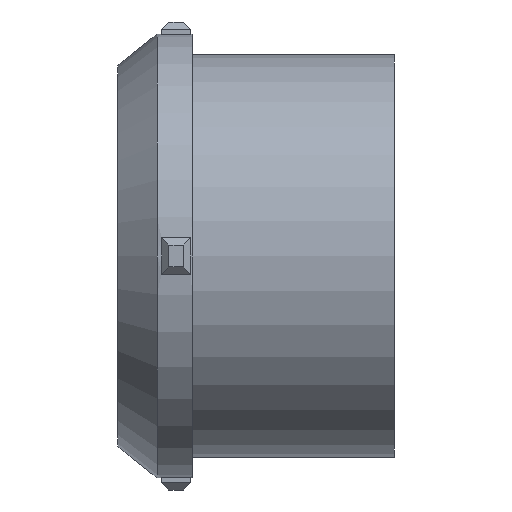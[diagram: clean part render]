
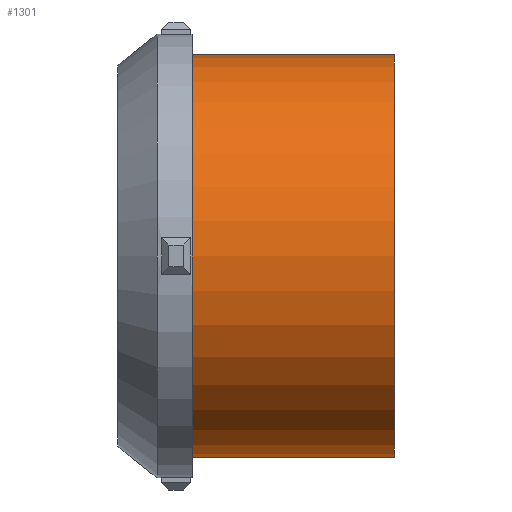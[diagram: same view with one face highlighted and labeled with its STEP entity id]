
A CAD part, left-side view. The second image highlights one B-rep face of the part: STEP entity #1301.
In plain terms, the highlighted cylindrical face has radius 6.985 mm (diameter 13.97 mm), a partial arc.
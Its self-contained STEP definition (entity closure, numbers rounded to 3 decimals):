
#22 = VERTEX_POINT('',#23);
#23 = CARTESIAN_POINT('',(0.,1.601,-6.985));
#24 = VERTEX_POINT('',#25);
#25 = CARTESIAN_POINT('',(0.,1.601,6.985));
#33 = CYLINDRICAL_SURFACE('',#34,6.985);
#34 = AXIS2_PLACEMENT_3D('',#35,#36,#37);
#35 = CARTESIAN_POINT('',(0.,-11.474,0.));
#36 = DIRECTION('',(0.,-1.,0.));
#37 = DIRECTION('',(0.,0.,-1.));
#44 = PLANE('',#45);
#45 = AXIS2_PLACEMENT_3D('',#46,#47,#48);
#46 = CARTESIAN_POINT('',(0.,1.601,-7.707));
#47 = DIRECTION('',(0.,-1.,0.));
#48 = DIRECTION('',(0.,0.,-1.));
#56 = EDGE_CURVE('',#24,#57,#59,.T.);
#57 = VERTEX_POINT('',#58);
#58 = CARTESIAN_POINT('',(0.,-5.421,6.985));
#59 = SURFACE_CURVE('',#60,(#64,#70),.PCURVE_S1.);
#60 = LINE('',#61,#62);
#61 = CARTESIAN_POINT('',(0.,-11.474,6.985));
#62 = VECTOR('',#63,1.);
#63 = DIRECTION('',(0.,-1.,0.));
#64 = PCURVE('',#33,#65);
#65 = DEFINITIONAL_REPRESENTATION('',(#66),#69);
#66 = B_SPLINE_CURVE_WITH_KNOTS('',1,(#67,#68),.UNSPECIFIED.,.F.,.F.,(2,
    2),(-13.076,-6.053),.PIECEWISE_BEZIER_KNOTS.);
#67 = CARTESIAN_POINT('',(3.142,-13.076));
#68 = CARTESIAN_POINT('',(3.142,-6.053));
#69 = ( GEOMETRIC_REPRESENTATION_CONTEXT(2) 
PARAMETRIC_REPRESENTATION_CONTEXT() REPRESENTATION_CONTEXT('2D SPACE',''
  ) );
#70 = PCURVE('',#71,#76);
#71 = CYLINDRICAL_SURFACE('',#72,6.985);
#72 = AXIS2_PLACEMENT_3D('',#73,#74,#75);
#73 = CARTESIAN_POINT('',(0.,-11.474,0.));
#74 = DIRECTION('',(0.,-1.,0.));
#75 = DIRECTION('',(0.,0.,-1.));
#76 = DEFINITIONAL_REPRESENTATION('',(#77),#80);
#77 = B_SPLINE_CURVE_WITH_KNOTS('',1,(#78,#79),.UNSPECIFIED.,.F.,.F.,(2,
    2),(-13.076,-6.053),.PIECEWISE_BEZIER_KNOTS.);
#78 = CARTESIAN_POINT('',(3.142,-13.076));
#79 = CARTESIAN_POINT('',(3.142,-6.053));
#80 = ( GEOMETRIC_REPRESENTATION_CONTEXT(2) 
PARAMETRIC_REPRESENTATION_CONTEXT() REPRESENTATION_CONTEXT('2D SPACE',''
  ) );
#83 = VERTEX_POINT('',#84);
#84 = CARTESIAN_POINT('',(0.,-5.421,-6.985));
#98 = PLANE('',#99);
#99 = AXIS2_PLACEMENT_3D('',#100,#101,#102);
#100 = CARTESIAN_POINT('',(0.,-5.421,-6.985));
#101 = DIRECTION('',(0.,-1.,0.));
#102 = DIRECTION('',(0.,0.,-1.));
#110 = EDGE_CURVE('',#22,#83,#111,.T.);
#111 = SURFACE_CURVE('',#112,(#116,#122),.PCURVE_S1.);
#112 = LINE('',#113,#114);
#113 = CARTESIAN_POINT('',(0.,-11.474,-6.985));
#114 = VECTOR('',#115,1.);
#115 = DIRECTION('',(0.,-1.,0.));
#116 = PCURVE('',#33,#117);
#117 = DEFINITIONAL_REPRESENTATION('',(#118),#121);
#118 = B_SPLINE_CURVE_WITH_KNOTS('',1,(#119,#120),.UNSPECIFIED.,.F.,.F.,
  (2,2),(-13.076,-6.053),.PIECEWISE_BEZIER_KNOTS.);
#119 = CARTESIAN_POINT('',(0.,-13.076));
#120 = CARTESIAN_POINT('',(0.,-6.053));
#121 = ( GEOMETRIC_REPRESENTATION_CONTEXT(2) 
PARAMETRIC_REPRESENTATION_CONTEXT() REPRESENTATION_CONTEXT('2D SPACE',''
  ) );
#122 = PCURVE('',#71,#123);
#123 = DEFINITIONAL_REPRESENTATION('',(#124),#127);
#124 = B_SPLINE_CURVE_WITH_KNOTS('',1,(#125,#126),.UNSPECIFIED.,.F.,.F.,
  (2,2),(-13.076,-6.053),.PIECEWISE_BEZIER_KNOTS.);
#125 = CARTESIAN_POINT('',(6.283,-13.076));
#126 = CARTESIAN_POINT('',(6.283,-6.053));
#127 = ( GEOMETRIC_REPRESENTATION_CONTEXT(2) 
PARAMETRIC_REPRESENTATION_CONTEXT() REPRESENTATION_CONTEXT('2D SPACE',''
  ) );
#1281 = EDGE_CURVE('',#24,#22,#1282,.T.);
#1282 = SURFACE_CURVE('',#1283,(#1288,#1295),.PCURVE_S1.);
#1283 = CIRCLE('',#1284,6.985);
#1284 = AXIS2_PLACEMENT_3D('',#1285,#1286,#1287);
#1285 = CARTESIAN_POINT('',(0.,1.601,0.));
#1286 = DIRECTION('',(0.,-1.,0.));
#1287 = DIRECTION('',(0.,0.,-1.));
#1288 = PCURVE('',#44,#1289);
#1289 = DEFINITIONAL_REPRESENTATION('',(#1290),#1294);
#1290 = CIRCLE('',#1291,6.985);
#1291 = AXIS2_PLACEMENT_2D('',#1292,#1293);
#1292 = CARTESIAN_POINT('',(-7.707,0.));
#1293 = DIRECTION('',(1.,0.));
#1294 = ( GEOMETRIC_REPRESENTATION_CONTEXT(2) 
PARAMETRIC_REPRESENTATION_CONTEXT() REPRESENTATION_CONTEXT('2D SPACE',''
  ) );
#1295 = PCURVE('',#71,#1296);
#1296 = DEFINITIONAL_REPRESENTATION('',(#1297),#1300);
#1297 = B_SPLINE_CURVE_WITH_KNOTS('',1,(#1298,#1299),.UNSPECIFIED.,.F.,
  .F.,(2,2),(3.142,6.283),.PIECEWISE_BEZIER_KNOTS.);
#1298 = CARTESIAN_POINT('',(3.142,-13.076));
#1299 = CARTESIAN_POINT('',(6.283,-13.076));
#1300 = ( GEOMETRIC_REPRESENTATION_CONTEXT(2) 
PARAMETRIC_REPRESENTATION_CONTEXT() REPRESENTATION_CONTEXT('2D SPACE',''
  ) );
#1301 = ADVANCED_FACE('',(#1302),#71,.T.);
#1302 = FACE_BOUND('',#1303,.T.);
#1303 = EDGE_LOOP('',(#1304,#1305,#1306,#1307));
#1304 = ORIENTED_EDGE('',*,*,#56,.F.);
#1305 = ORIENTED_EDGE('',*,*,#1281,.T.);
#1306 = ORIENTED_EDGE('',*,*,#110,.T.);
#1307 = ORIENTED_EDGE('',*,*,#1308,.F.);
#1308 = EDGE_CURVE('',#57,#83,#1309,.T.);
#1309 = SURFACE_CURVE('',#1310,(#1315,#1321),.PCURVE_S1.);
#1310 = CIRCLE('',#1311,6.985);
#1311 = AXIS2_PLACEMENT_3D('',#1312,#1313,#1314);
#1312 = CARTESIAN_POINT('',(0.,-5.421,0.));
#1313 = DIRECTION('',(0.,-1.,0.));
#1314 = DIRECTION('',(0.,0.,-1.));
#1315 = PCURVE('',#71,#1316);
#1316 = DEFINITIONAL_REPRESENTATION('',(#1317),#1320);
#1317 = B_SPLINE_CURVE_WITH_KNOTS('',1,(#1318,#1319),.UNSPECIFIED.,.F.,
  .F.,(2,2),(3.142,6.283),.PIECEWISE_BEZIER_KNOTS.);
#1318 = CARTESIAN_POINT('',(3.142,-6.053));
#1319 = CARTESIAN_POINT('',(6.283,-6.053));
#1320 = ( GEOMETRIC_REPRESENTATION_CONTEXT(2) 
PARAMETRIC_REPRESENTATION_CONTEXT() REPRESENTATION_CONTEXT('2D SPACE',''
  ) );
#1321 = PCURVE('',#98,#1322);
#1322 = DEFINITIONAL_REPRESENTATION('',(#1323),#1327);
#1323 = CIRCLE('',#1324,6.985);
#1324 = AXIS2_PLACEMENT_2D('',#1325,#1326);
#1325 = CARTESIAN_POINT('',(-6.985,0.));
#1326 = DIRECTION('',(1.,0.));
#1327 = ( GEOMETRIC_REPRESENTATION_CONTEXT(2) 
PARAMETRIC_REPRESENTATION_CONTEXT() REPRESENTATION_CONTEXT('2D SPACE',''
  ) );
